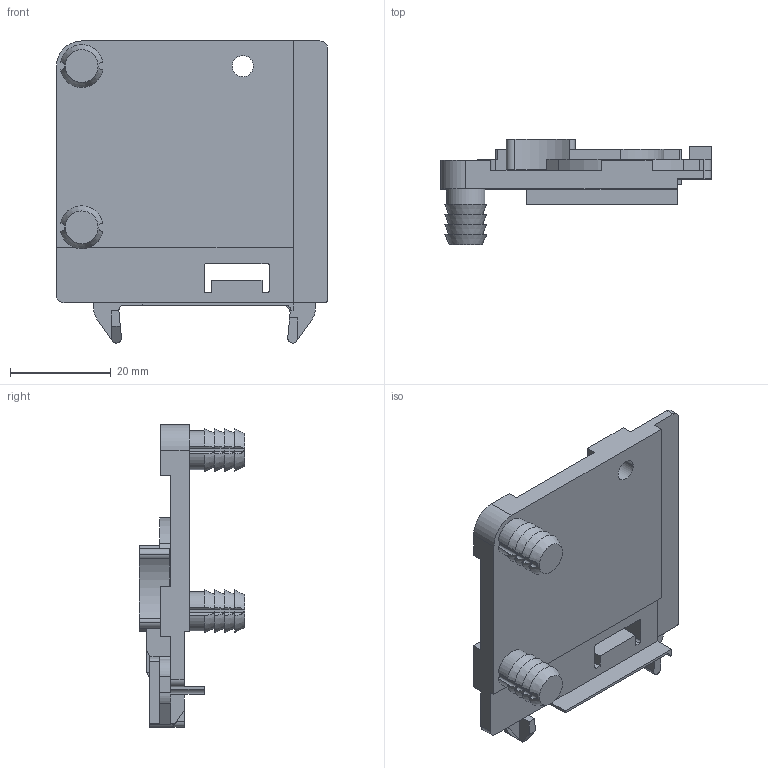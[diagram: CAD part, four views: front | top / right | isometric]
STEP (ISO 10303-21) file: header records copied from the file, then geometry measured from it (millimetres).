
FILE_DESCRIPTION (( 'STEP AP214' ), '1' );
FILE_NAME ('IMOS_Dynapro_Soft-close_Verstelladapter_rechts mit Dübel.step', '2012-02-01T09:06:46', ( 'Grass' ), ( '' ), 'SwSTEP 2.0', 'SolidWorks 2011', '' );
FILE_SCHEMA (( 'AUTOMOTIVE_DESIGN' ));
Length unit declared in the file: millimetre
Products named in the file (1): IMOS_Dynapro_Soft-close_Verstelladapter_rechts mit Dübel
Bounding box: 53.8 x 20.9 x 60 mm (x, y, z)
Volume: 14829.7 mm3; surface area: 9425.7 mm2
Topology: 1 solids, 1 shells, 308 faces, 849 edges, 549 vertices
Faces by surface type: plane 184, cylinder 94, cone 30
Entity records: 10083 total; most frequent: CARTESIAN_POINT 2196, ORIENTED_EDGE 1698, DIRECTION 1592, EDGE_CURVE 849, VERTEX_POINT 549, AXIS2_PLACEMENT_3D 533, LINE 526, VECTOR 526
